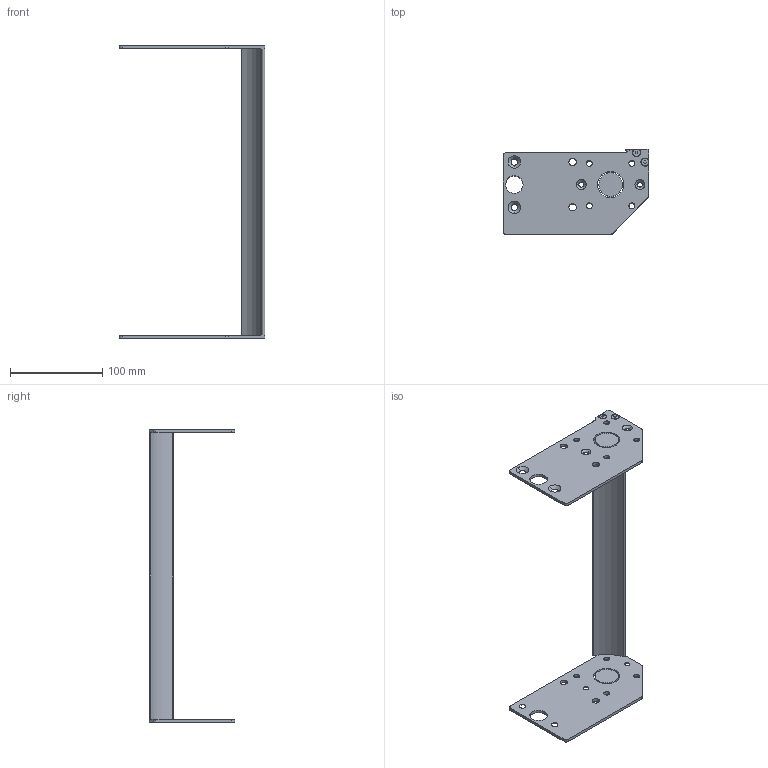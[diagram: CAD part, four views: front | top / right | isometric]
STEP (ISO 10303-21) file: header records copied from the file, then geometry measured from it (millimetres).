
FILE_DESCRIPTION((''),'2;1');
FILE_NAME('27M3300-10_ASM','2017-04-28T',('jenni.wallner'),(''),'PRO/ENGINEER BY PARAMETRIC TECHNOLOGY CORPORATION, 2012420','PRO/ENGINEER BY PARAMETRIC TECHNOLOGY CORPORATION, 2012420','');
FILE_SCHEMA(('CONFIG_CONTROL_DESIGN'));
Length unit declared in the file: inch
Products named in the file (5): 350539-12; 350540; 350541; 930410M; 27M3300-10_ASM
Assembly tree (7 placements, depth 2):
  27M3300-10_ASM
    350539-12
    350540
    350541
    930410M  x4
Bounding box: 157.96 x 92.74 x 317.14 mm (x, y, z)
Volume: 166174.1 mm3; surface area: 91552.6 mm2
Topology: 7 solids, 11 shells, 206 faces, 540 edges, 352 vertices
Faces by surface type: cylinder 96, plane 70, cone 40
Entity records: 5328 total; most frequent: DIRECTION 972, CARTESIAN_POINT 907, ORIENTED_EDGE 836, EDGE_CURVE 426, AXIS2_PLACEMENT_3D 383, VERTEX_POINT 280, EDGE_LOOP 220, CIRCLE 214
